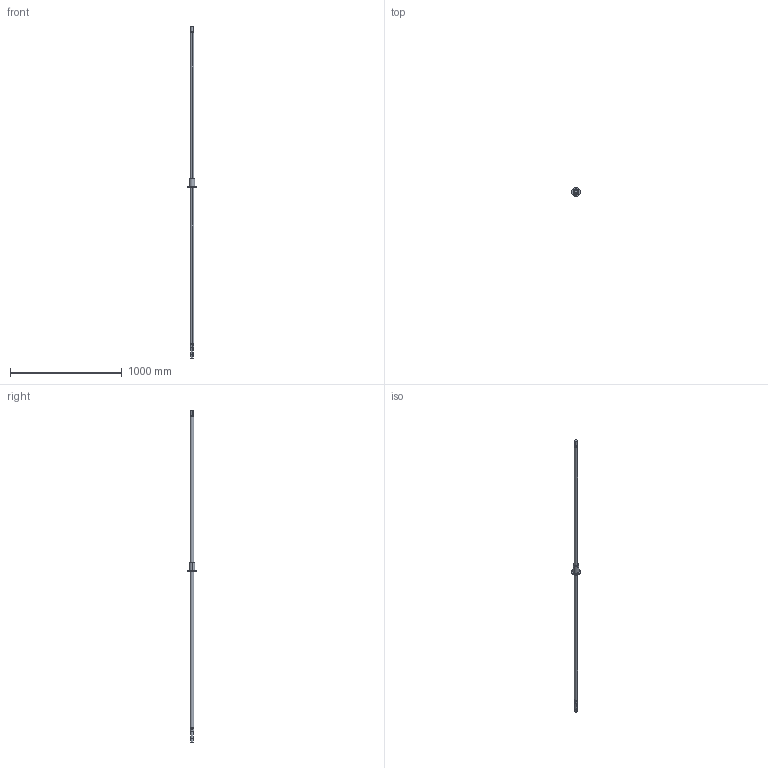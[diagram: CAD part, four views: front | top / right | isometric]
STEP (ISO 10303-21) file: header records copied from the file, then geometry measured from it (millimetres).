
FILE_DESCRIPTION((''),'2;1');
FILE_NAME('ASM0001_ASM','2008-04-11T',('cmliu'),(''),'PRO/ENGINEER BY PARAMETRIC TECHNOLOGY CORPORATION, 2004110','PRO/ENGINEER BY PARAMETRIC TECHNOLOGY CORPORATION, 2004110','');
FILE_SCHEMA(('CONFIG_CONTROL_DESIGN'));
Length unit declared in the file: millimetre
Products named in the file (3): 3232; 32-32K2; ASM0001_ASM
Assembly tree (2 placements, depth 2):
  ASM0001_ASM
    3232
    32-32K2
Bounding box: 80 x 80 x 2976 mm (x, y, z)
Volume: 2498316.4 mm3; surface area: 333403.3 mm2
Topology: 2 solids, 2 shells, 65 faces, 155 edges, 105 vertices
Faces by surface type: cylinder 45, plane 20
Entity records: 2144 total; most frequent: CARTESIAN_POINT 434, DIRECTION 372, ORIENTED_EDGE 310, AXIS2_PLACEMENT_3D 158, EDGE_CURVE 155, VERTEX_POINT 105, EDGE_LOOP 92, CIRCLE 88
